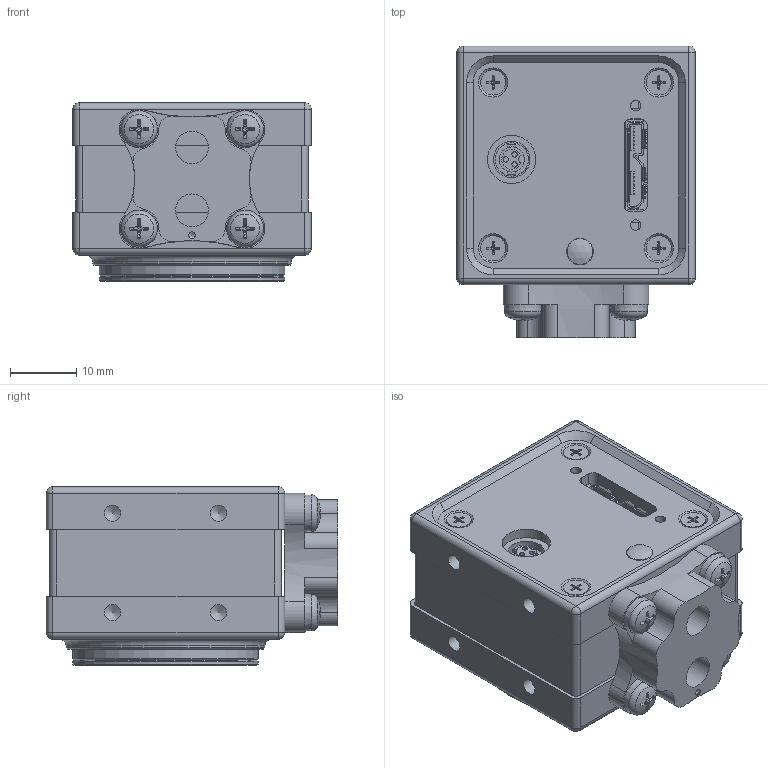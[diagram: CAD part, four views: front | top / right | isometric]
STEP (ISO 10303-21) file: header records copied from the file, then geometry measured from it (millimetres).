
FILE_DESCRIPTION(/* description */ (''),/* implementation_level */ '2;1');
FILE_NAME(/* name */ 'D:\HiDrive\1_Konstruktion\1_KUNDEN\TIS\189-15_MC36-Camera (Raytrix-Board)\IPT und STEP Ableitungen für Kunden\189-15-10_MC36_42MP-Raytrix_USB3_CS-FP_13,2_ER-7,4.stp',/* time_stamp */ '2017-11-04T19:34:28+01:00',/* author */ ('khw'),/* organization */ (''),/* preprocessor_version */ 'ST-DEVELOPER v16.5',/* originating_system */ 'Autodesk Inventor 2017',/* authorisation */ '');
FILE_SCHEMA (('AUTOMOTIVE_DESIGN { 1 0 10303 214 3 1 1 }'));
Length unit declared in the file: millimetre
Products named in the file (4): 189-15-10_MC36_42MP-Raytrix_USB3_CS-FP_13,2_ER-7,4; 189-15-10_MC36_42MP-Raytrix_USB3_CS-FP_13,2_ER-7,4_1; 154-13-1-00-03_Tripod Adapter; ISO 7045 - M3 x 6 - 4.8 - H
Assembly tree (6 placements, depth 2):
  189-15-10_MC36_42MP-Raytrix_USB3_CS-FP_13,2_ER-7,4
    189-15-10_MC36_42MP-Raytrix_USB3_CS-FP_13,2_ER-7,4_1
    154-13-1-00-03_Tripod Adapter
    ISO 7045 - M3 x 6 - 4.8 - H  x4
Bounding box: 36 x 44 x 26.95 mm (x, y, z)
Volume: 17982 mm3; surface area: 16470.5 mm2
Topology: 8 solids, 9 shells, 1030 faces, 2733 edges, 1778 vertices
Faces by surface type: plane 512, cylinder 313, cone 145, torus 47, sphere 13
Full cylindrical faces by diameter (mm): 0.7 x1, 0.8 x3, 1 x1, 1.567 x6, 1.755 x4, 2 x4, 2.3 x4, 2.459 x16, 2.729 x4, 3 x4, 3.4 x4, 3.5 x2, 3.8 x5, 3.9 x1, 4 x7, 4.8 x1, 4.917 x1, 4.978 x1, 5 x5, 5.5 x1, 7.3 x1, 20.2 x1, 21.9 x1, 22 x2, 24.536 x1, 25.8 x1, 26 x1, 27 x2, 28 x3, 28.05 x1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
Entity records: 29338 total; most frequent: CARTESIAN_POINT 5277, DIRECTION 4902, ORIENTED_EDGE 4576, EDGE_CURVE 2288, AXIS2_PLACEMENT_3D 1759, VERTEX_POINT 1572, LINE 1384, VECTOR 1384
